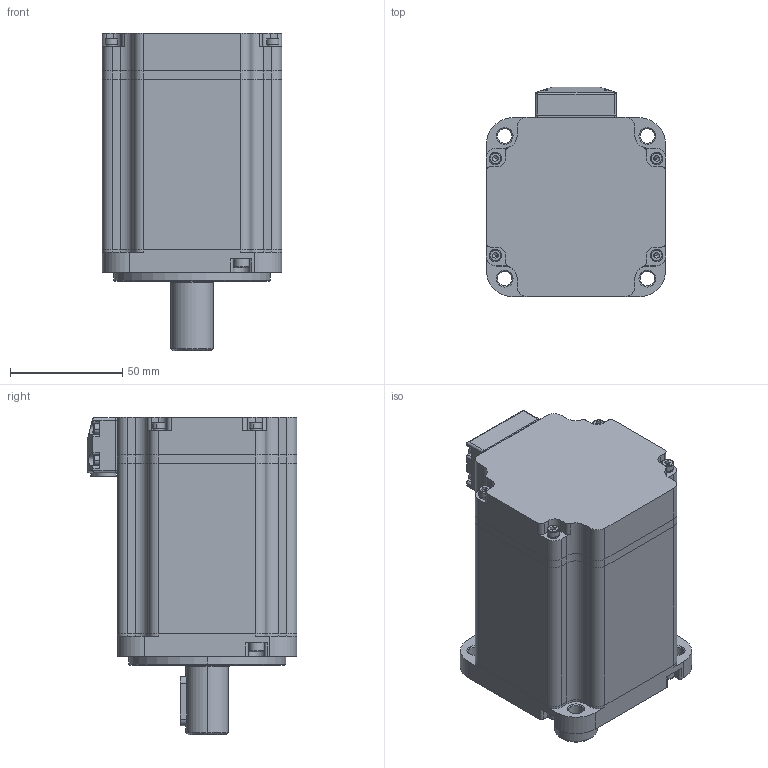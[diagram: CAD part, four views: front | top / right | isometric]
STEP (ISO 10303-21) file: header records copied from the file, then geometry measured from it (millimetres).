
FILE_DESCRIPTION (( 'STEP AP203' ), '1' );
FILE_NAME ('9.7469-SMC80S-0075-30QAK-5DSU.STEP', '2021-10-28T04:50:46', ( '' ), ( '' ), 'SwSTEP 2.0', 'SolidWorks 2018', '' );
FILE_SCHEMA (( 'CONFIG_CONTROL_DESIGN' ));
Length unit declared in the file: millimetre
Products named in the file (1): 9.7469-SMC80S-0075-30QAK-5DSU
Bounding box: 80 x 93.5 x 141.7 mm (x, y, z)
Volume: 261996.9 mm3; surface area: 164127 mm2
Topology: 43 solids, 43 shells, 2099 faces, 5752 edges, 3646 vertices
Faces by surface type: cylinder 864, plane 767, sphere 172, torus 165, cone 117, bspline 14
Entity records: 70600 total; most frequent: CARTESIAN_POINT 17475, DIRECTION 11430, ORIENTED_EDGE 11104, EDGE_CURVE 5552, AXIS2_PLACEMENT_3D 4516, VERTEX_POINT 3596, CIRCLE 2430, VECTOR 2398
